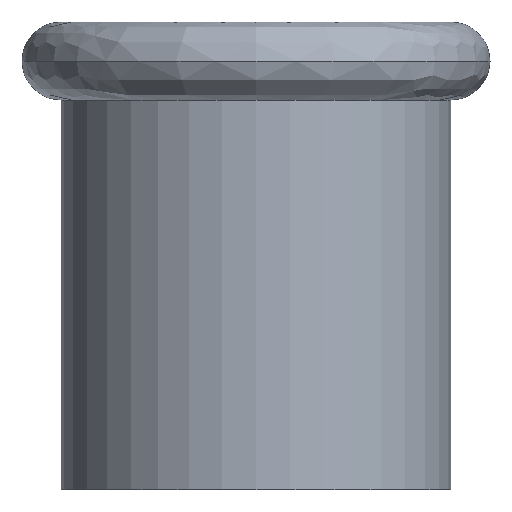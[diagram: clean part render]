
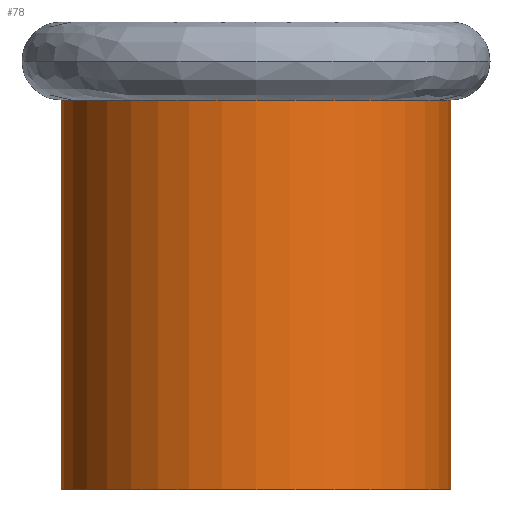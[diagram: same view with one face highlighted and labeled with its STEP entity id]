
A CAD part, left-side view. The second image highlights one B-rep face of the part: STEP entity #78.
In plain terms, the highlighted cylindrical face has radius 25 mm (diameter 50 mm), a partial arc.
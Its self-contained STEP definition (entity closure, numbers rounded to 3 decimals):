
#4 = EDGE_CURVE ( 'NONE', #137, #172, #327, .T. ) ;
#5 = EDGE_CURVE ( 'NONE', #167, #249, #380, .T. ) ;
#7 = EDGE_CURVE ( 'NONE', #137, #167, #328, .T. ) ;
#21 = AXIS2_PLACEMENT_3D ( 'NONE', #139, #267, #282 ) ;
#59 = CARTESIAN_POINT ( 'NONE',  ( 0., -25., 0. ) ) ;
#60 = CARTESIAN_POINT ( 'NONE',  ( 0., 25., 50. ) ) ;
#70 = AXIS2_PLACEMENT_3D ( 'NONE', #162, #179, #195 ) ;
#78 = ADVANCED_FACE ( 'NONE', ( #389 ), #353, .T. ) ;
#82 = AXIS2_PLACEMENT_3D ( 'NONE', #203, #238, #201 ) ;
#86 = EDGE_CURVE ( 'NONE', #172, #249, #101, .T. ) ;
#101 = CIRCLE ( 'NONE', #21, 25. ) ;
#133 = CARTESIAN_POINT ( 'NONE',  ( 0., -25., 50. ) ) ;
#137 = VERTEX_POINT ( 'NONE', #293 ) ;
#139 = CARTESIAN_POINT ( 'NONE',  ( 0., 0., 50. ) ) ;
#162 = CARTESIAN_POINT ( 'NONE',  ( 0., 0., 25. ) ) ;
#167 = VERTEX_POINT ( 'NONE', #59 ) ;
#172 = VERTEX_POINT ( 'NONE', #60 ) ;
#179 = DIRECTION ( 'NONE',  ( 0., 0., 1. ) ) ;
#195 = DIRECTION ( 'NONE',  ( 0., -1., 0. ) ) ;
#201 = DIRECTION ( 'NONE',  ( 1., 0., 0. ) ) ;
#203 = CARTESIAN_POINT ( 'NONE',  ( 0., 0., 0. ) ) ;
#212 = DIRECTION ( 'NONE',  ( 0., 0., 1. ) ) ;
#213 = CARTESIAN_POINT ( 'NONE',  ( 0., -25., 25. ) ) ;
#215 = DIRECTION ( 'NONE',  ( 0., 0., 1. ) ) ;
#216 = CARTESIAN_POINT ( 'NONE',  ( 0., 25., 25. ) ) ;
#238 = DIRECTION ( 'NONE',  ( 0., 0., 1. ) ) ;
#249 = VERTEX_POINT ( 'NONE', #133 ) ;
#267 = DIRECTION ( 'NONE',  ( 0., 0., 1. ) ) ;
#282 = DIRECTION ( 'NONE',  ( 1., 0., 0. ) ) ;
#293 = CARTESIAN_POINT ( 'NONE',  ( 0., 25., 0. ) ) ;
#327 = LINE ( 'NONE', #216, #334 ) ;
#328 = CIRCLE ( 'NONE', #82, 25. ) ;
#334 = VECTOR ( 'NONE', #215, 1000. ) ;
#336 = ORIENTED_EDGE ( 'NONE', *, *, #7, .T. ) ;
#353 = CYLINDRICAL_SURFACE ( 'NONE', #70, 25. ) ;
#359 = ORIENTED_EDGE ( 'NONE', *, *, #86, .F. ) ;
#360 = ORIENTED_EDGE ( 'NONE', *, *, #5, .T. ) ;
#369 = EDGE_LOOP ( 'NONE', ( #374, #336, #360, #359 ) ) ;
#374 = ORIENTED_EDGE ( 'NONE', *, *, #4, .F. ) ;
#380 = LINE ( 'NONE', #213, #382 ) ;
#382 = VECTOR ( 'NONE', #212, 1000. ) ;
#389 = FACE_OUTER_BOUND ( 'NONE', #369, .T. ) ;
